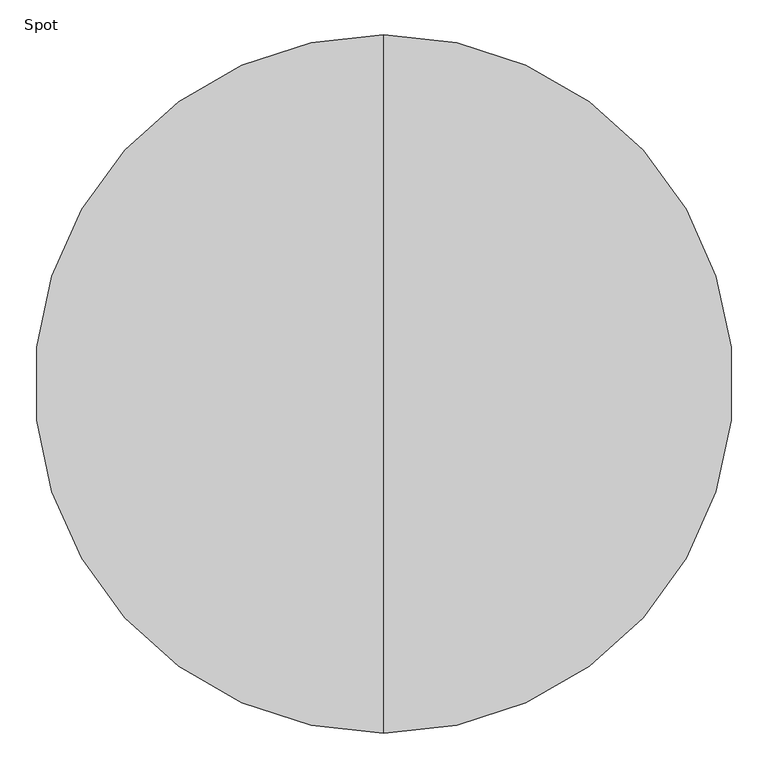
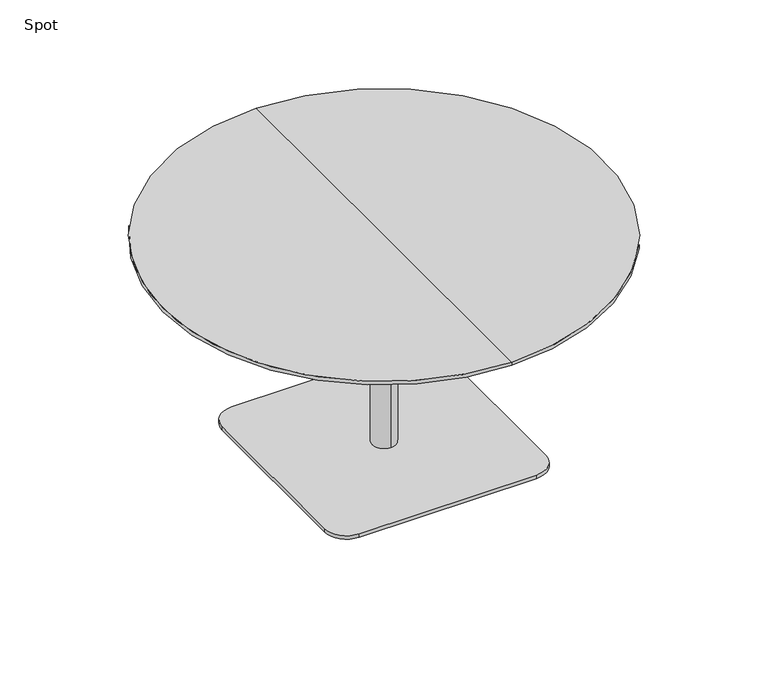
"""IFC4 building model written with IfcOpenShell, lengths in millimetres: furniture geometry, Spot : Bø120x60s."""

from ifc_helpers import new_model, si_unit, point, frame, frame_2d, origin, origin_with_axes, place, context, project, spatial, polyline, circle_curve, trimmed, segment, composite_curve, outline, extrude, source, transform, mapped, element, save
from ifc_brep_helpers import plane_surface, cylinder_surface, revolved_surface, advanced_brep


def spot_081fea2e(model_context):
    return source(origin(), model_context, "Body", "SolidModel", [
        advanced_brep(
        [(0.0, -600.0, 600.0), (0.0, 600.0, 600.0), (0.0, 0.0, 600.0), (0.0, 600.0, 590.25), (0.0, -600.0, 590.25), (0.0, 0.0, 578.0), (0.0, -554.2823776, 578.0), (0.0, 554.2823776, 578.0)],
        [
            (0, 1, circle_curve(frame((0.0, 0.0, 600.0), z_axis=(0.0, 0.0, 1.0), x_axis=(0.0, -1.0, 0.0)), 600.0)),
            (1, 2),
            (2, 0),
            (3, 4, circle_curve(frame((0.0, 0.0, 590.25), z_axis=(0.0, 0.0, 1.0), x_axis=(0.0, -1.0, 0.0)), 600.0)),
            (4, 0),
            (0, 1, circle_curve(frame((0.0, 0.0, 600.0), z_axis=(0.0, 0.0, -1.0), x_axis=(0.0, -1.0, 0.0)), 600.0)),
            (1, 3),
            (5, 6),
            (6, 7, circle_curve(frame((0.0, 0.0, 578.0), z_axis=(0.0, 0.0, -1.0), x_axis=(0.0, -1.0, 0.0)), 554.2823776)),
            (7, 5),
            (7, 6, circle_curve(frame((0.0, 0.0, 578.0), z_axis=(0.0, 0.0, -1.0), x_axis=(0.0, -1.0, 0.0)), 554.2823776)),
            (4, 3, circle_curve(frame((0.0, 0.0, 590.25), z_axis=(0.0, 0.0, 1.0), x_axis=(0.0, -1.0, 0.0)), 600.0)),
            (6, 4),
            (3, 7),
        ],
        [
            plane_surface(frame((0.0, 0.0, 600.0), z_axis=(0.0, 0.0, 1.0), x_axis=(0.0, -1.0, 0.0))),
            cylinder_surface(frame((0.0, 0.0, 680.0), z_axis=(0.0, 0.0, -1.0), x_axis=(0.0, -1.0, 0.0)), 600.0),
            plane_surface(frame((0.0, 0.0, 578.0), z_axis=(0.0, 0.0, -1.0), x_axis=(0.0, -1.0, 0.0))),
            revolved_surface(polyline([(0.0, -600.0, 590.25), (0.0, -554.2823776, 578.0)]), (0.0, 0.0, 680.0), (0.0, 0.0, -1.0)),
        ],
        [
            (0, [[1, 2, 3]]),
            (1, [[4, 5, 6, 7]]),
            (2, [[8, 9, 10]]),
            (2, [[-10, 11, -8]]),
            (0, [[-6, -3, -2]]),
            (1, [[12, -7, -1, -5]]),
            (3, [[-9, 13, -4, 14]]),
            (3, [[-11, -14, -12, -13]]),
        ],
    ),
        extrude(outline(composite_curve([segment(trimmed(circle_curve(frame_2d((240.0, 240.0)), 60.0), [point((240.0, 300.0))], [point((300.0, 240.0))], False, "CARTESIAN"), True, "CONTINUOUS"), segment(polyline([(300.0, 240.0), (300.0, -240.0)]), True, "CONTINUOUS"), segment(trimmed(circle_curve(frame_2d((240.0, -240.0)), 60.0), [point((300.0, -240.0))], [point((240.0, -300.0))], False, "CARTESIAN"), True, "CONTINUOUS"), segment(polyline([(240.0, -300.0), (-240.0, -300.0)]), True, "CONTINUOUS"), segment(trimmed(circle_curve(frame_2d((-240.0, -240.0)), 60.0), [point((-240.0, -300.0))], [point((-300.0, -240.0))], False, "CARTESIAN"), True, "CONTINUOUS"), segment(polyline([(-300.0, -240.0), (-300.0, 240.0)]), True, "CONTINUOUS"), segment(trimmed(circle_curve(frame_2d((-240.0, 240.0)), 60.0), [point((-300.0, 240.0))], [point((-240.0, 300.0))], False, "CARTESIAN"), True, "CONTINUOUS"), segment(polyline([(-240.0, 300.0), (240.0, 300.0)]), True, "CONTINUOUS")], self_intersect=False)), origin_with_axes(), (0.0, 0.0, 1.0), 10.0),
        advanced_brep(
        [(0.0, 32.0, 10.0), (0.0, -32.0, 10.0), (0.0, -32.0, 547.406916), (0.0, 32.0, 547.406916), (0.0, 0.0, 10.0), (0.0, 150.0, 578.0), (0.0, -150.0, 578.0), (0.0, 0.0, 578.0), (0.0, 150.0, 566.7213673), (0.0, -150.0, 566.7213673)],
        [
            (0, 1, circle_curve(frame((0.0, 0.0, 10.0), z_axis=(0.0, 0.0, 1.0), x_axis=(0.0, -1.0, 0.0)), 32.0)),
            (1, 2),
            (2, 3, circle_curve(frame((0.0, 0.0, 547.406916), z_axis=(0.0, 0.0, -1.0), x_axis=(0.0, -1.0, 0.0)), 32.0)),
            (3, 0),
            (1, 0, circle_curve(frame((0.0, 0.0, 10.0), z_axis=(0.0, 0.0, 1.0), x_axis=(0.0, -1.0, 0.0)), 32.0)),
            (3, 2, circle_curve(frame((0.0, 0.0, 547.406916), z_axis=(0.0, 0.0, -1.0), x_axis=(0.0, -1.0, 0.0)), 32.0)),
            (4, 1),
            (0, 4),
            (5, 6, circle_curve(frame((0.0, 0.0, 578.0), z_axis=(0.0, 0.0, 1.0), x_axis=(0.0, -1.0, 0.0)), 150.0)),
            (6, 7),
            (7, 5),
            (6, 5, circle_curve(frame((0.0, 0.0, 578.0), z_axis=(0.0, 0.0, 1.0), x_axis=(0.0, -1.0, 0.0)), 150.0)),
            (8, 9, circle_curve(frame((0.0, 0.0, 566.7213673), z_axis=(0.0, 0.0, 1.0), x_axis=(0.0, -1.0, 0.0)), 150.0)),
            (9, 6),
            (5, 8),
            (9, 8, circle_curve(frame((0.0, 0.0, 566.7213673), z_axis=(0.0, 0.0, 1.0), x_axis=(0.0, -1.0, 0.0)), 150.0)),
            (2, 9),
            (8, 3),
        ],
        [
            cylinder_surface(frame((0.0, 0.0, 940.0), z_axis=(0.0, 0.0, -1.0), x_axis=(0.0, -1.0, 0.0)), 32.0),
            plane_surface(frame((0.0, 0.0, 10.0), z_axis=(0.0, 0.0, -1.0), x_axis=(0.0, -1.0, 0.0))),
            plane_surface(frame((0.0, 0.0, 578.0), z_axis=(0.0, 0.0, 1.0), x_axis=(0.0, -1.0, 0.0))),
            cylinder_surface(frame((0.0, 0.0, 940.0), z_axis=(0.0, 0.0, -1.0), x_axis=(0.0, -1.0, 0.0)), 150.0),
            revolved_surface(polyline([(0.0, -150.0, 566.7213673), (0.0, -32.0, 547.406916)]), (0.0, 0.0, 940.0), (0.0, 0.0, -1.0)),
        ],
        [
            (0, [[1, 2, 3, 4]]),
            (0, [[5, -4, 6, -2]]),
            (1, [[7, -1, 8]]),
            (1, [[-8, -5, -7]]),
            (2, [[9, 10, 11]]),
            (2, [[12, -11, -10]]),
            (3, [[13, 14, -9, 15]]),
            (3, [[16, -15, -12, -14]]),
            (4, [[-3, 17, -13, 18]]),
            (4, [[-6, -18, -16, -17]]),
        ],
    ),
        extrude(outline(polyline([(0.0, 0.0), (-20.0, 0.0), (-20.0, 20.0), (0.0, 20.0), (0.0, 0.0)])), origin_with_axes(), (0.0, 0.0, 1.0), 10.0),
    ])


if __name__ == "__main__":
    model = new_model("IFC4")
    model_context = context("Model", 3, world=origin())
    ifc_project = project(units=[si_unit("LENGTHUNIT", "METRE", prefix="MILLI")], contexts=[model_context])
    site = spatial("IfcSite", under=ifc_project)
    building = spatial("IfcBuilding", under=site)
    placement = place(None, origin())
    spot_shape = spot_081fea2e(model_context)
    element("IfcFurniture", 1, ObjectType="Spot : Bø120x60s", at=placement, inside=building, context=model_context, shape_type="MappedRepresentation", body=[
        mapped(spot_shape, transform((0.0, 0.0, 0.0), x_axis=(1.0, 0.0, 0.0), y_axis=(0.0, 1.0, 0.0), z_axis=(0.0, 0.0, 1.0))),
    ])
    save(model, "model.ifc")
